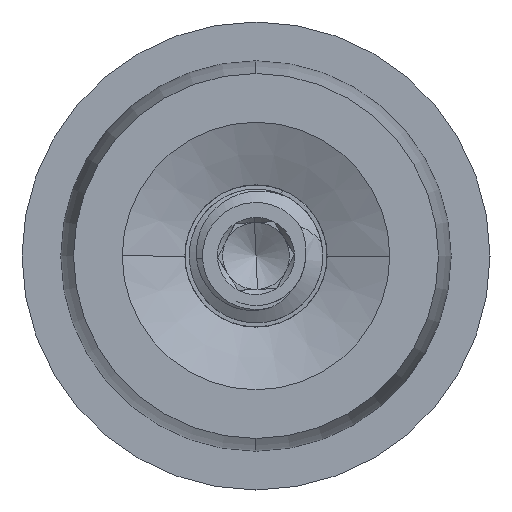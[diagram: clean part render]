
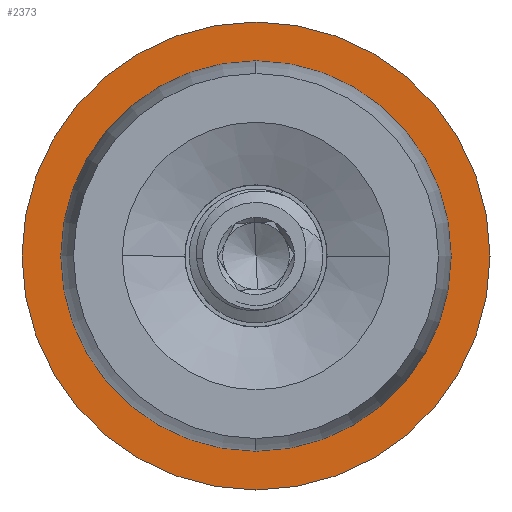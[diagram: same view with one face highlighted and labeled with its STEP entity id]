
A CAD part, left-side view. The second image highlights one B-rep face of the part: STEP entity #2373.
In plain terms, the highlighted planar face has unit normal (-1, 0, 0).
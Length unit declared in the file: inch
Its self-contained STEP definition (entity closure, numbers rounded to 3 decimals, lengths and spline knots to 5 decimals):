
#111 = CARTESIAN_POINT ( 'NONE',  ( -0.75, 0., 0.365 ) ) ;
#123 = CARTESIAN_POINT ( 'NONE',  ( -0.75, 0., -0.365 ) ) ;
#202 = DIRECTION ( 'NONE',  ( -1., 0., 0. ) ) ;
#1451 = FACE_BOUND ( 'NONE', #5204, .T. ) ;
#1472 = AXIS2_PLACEMENT_3D ( 'NONE', #2677, #8019, #3439 ) ;
#1480 = CIRCLE ( 'NONE', #1472, 0.365 ) ;
#2197 = EDGE_CURVE ( 'NONE', #2576, #7188, #6933, .T. ) ;
#2373 = ADVANCED_FACE ( 'NONE', ( #1451, #8978 ), #6275, .T. ) ;
#2427 = DIRECTION ( 'NONE',  ( 0., 0., 1. ) ) ;
#2484 = DIRECTION ( 'NONE',  ( -1., 0., 0. ) ) ;
#2576 = VERTEX_POINT ( 'NONE', #8641 ) ;
#2624 = ORIENTED_EDGE ( 'NONE', *, *, #9751, .T. ) ;
#2677 = CARTESIAN_POINT ( 'NONE',  ( -0.75, 0., 0. ) ) ;
#2872 = ORIENTED_EDGE ( 'NONE', *, *, #8945, .T. ) ;
#3044 = DIRECTION ( 'NONE',  ( -1., 0., 0. ) ) ;
#3312 = EDGE_LOOP ( 'NONE', ( #2624, #2872 ) ) ;
#3378 = AXIS2_PLACEMENT_3D ( 'NONE', #3457, #202, #2427 ) ;
#3395 = ORIENTED_EDGE ( 'NONE', *, *, #7012, .F. ) ;
#3439 = DIRECTION ( 'NONE',  ( 0., 0., 1. ) ) ;
#3457 = CARTESIAN_POINT ( 'NONE',  ( -0.75, 0., 0. ) ) ;
#3822 = VERTEX_POINT ( 'NONE', #9620 ) ;
#4261 = DIRECTION ( 'NONE',  ( 0., 0., 1. ) ) ;
#4476 = AXIS2_PLACEMENT_3D ( 'NONE', #7073, #2484, #7829 ) ;
#4557 = DIRECTION ( 'NONE',  ( -1., 0., 0. ) ) ;
#5004 = CIRCLE ( 'NONE', #5743, 0.4375 ) ;
#5140 = AXIS2_PLACEMENT_3D ( 'NONE', #123, #4557, #4261 ) ;
#5204 = EDGE_LOOP ( 'NONE', ( #3395, #5583 ) ) ;
#5583 = ORIENTED_EDGE ( 'NONE', *, *, #2197, .F. ) ;
#5697 = CIRCLE ( 'NONE', #4476, 0.4375 ) ;
#5743 = AXIS2_PLACEMENT_3D ( 'NONE', #7616, #3044, #8374 ) ;
#6275 = PLANE ( 'NONE',  #5140 ) ;
#6933 = CIRCLE ( 'NONE', #3378, 0.365 ) ;
#7012 = EDGE_CURVE ( 'NONE', #7188, #2576, #1480, .T. ) ;
#7073 = CARTESIAN_POINT ( 'NONE',  ( -0.75, 0., 0. ) ) ;
#7188 = VERTEX_POINT ( 'NONE', #111 ) ;
#7616 = CARTESIAN_POINT ( 'NONE',  ( -0.75, 0., 0. ) ) ;
#7829 = DIRECTION ( 'NONE',  ( 0., 0., 1. ) ) ;
#8019 = DIRECTION ( 'NONE',  ( -1., 0., 0. ) ) ;
#8115 = CARTESIAN_POINT ( 'NONE',  ( -0.75, 0., -0.4375 ) ) ;
#8374 = DIRECTION ( 'NONE',  ( 0., 0., 1. ) ) ;
#8641 = CARTESIAN_POINT ( 'NONE',  ( -0.75, 0., -0.365 ) ) ;
#8718 = VERTEX_POINT ( 'NONE', #8115 ) ;
#8945 = EDGE_CURVE ( 'NONE', #8718, #3822, #5004, .T. ) ;
#8978 = FACE_OUTER_BOUND ( 'NONE', #3312, .T. ) ;
#9620 = CARTESIAN_POINT ( 'NONE',  ( -0.75, 0., 0.4375 ) ) ;
#9751 = EDGE_CURVE ( 'NONE', #3822, #8718, #5697, .T. ) ;
